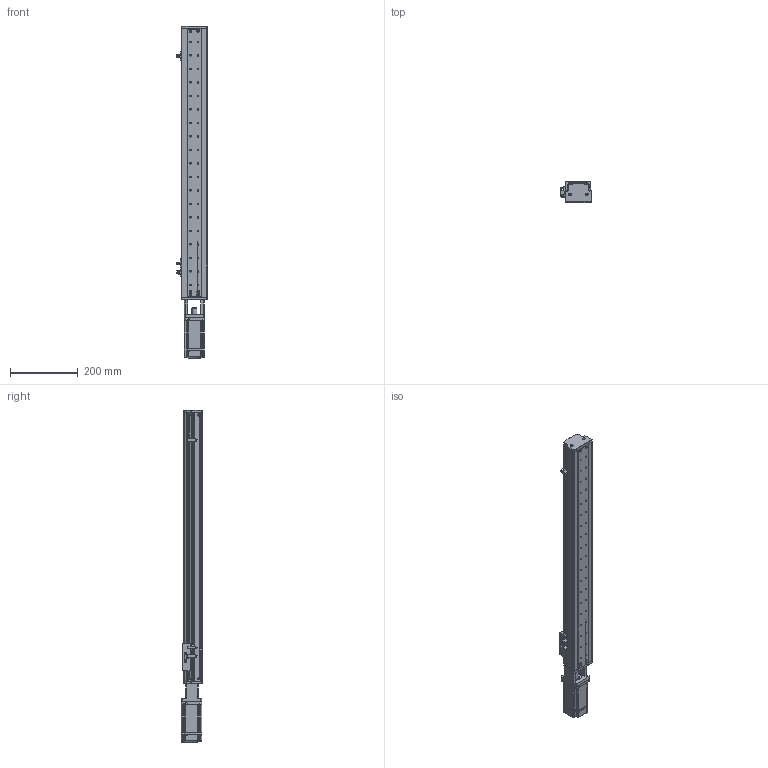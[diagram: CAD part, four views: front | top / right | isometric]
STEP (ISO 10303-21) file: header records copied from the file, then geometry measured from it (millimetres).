
FILE_DESCRIPTION (( 'STEP AP214' ), '1' );
FILE_NAME ('KSD75S-S640-MT-CM.STEP', '2019-10-18T07:33:55', ( '微软用户' ), ( '微软中国' ), 'SwSTEP 2.0', 'SolidWorks 2014', '' );
FILE_SCHEMA (( 'AUTOMOTIVE_DESIGN' ));
Length unit declared in the file: millimetre
Products named in the file (12): 640俴最; KSD75S-S640-MT-CM; MHMD042G1CA_2_03; 覜茼え100遵圉猾敕; U倰嫖萇EEㄜSX672; 綴傷啣 ; 100遵鎮湛假蚾啣1 ; ヶ傷啣; 75裔啣-640俴最; 75遵耀郪耜啣-640俴最; 75遵賑雄釱; MGW15H賑寢640俴最 
Assembly tree (14 placements, depth 3):
  KSD75S-S640-MT-CM
    MGW15H賑寢640俴最 
      640俴最
    75遵賑雄釱
    75遵耀郪耜啣-640俴最  x2
    75裔啣-640俴最
    ヶ傷啣
    100遵鎮湛假蚾啣1 
    綴傷啣 
    U倰嫖萇EEㄜSX672  x3
    覜茼え100遵圉猾敕
    MHMD042G1CA_2_03
Bounding box: 91.7 x 63 x 983.5 mm (x, y, z)
Volume: 990012.3 mm3; surface area: 621478.1 mm2
Topology: 12 solids, 13 shells, 1466 faces, 4125 edges, 2691 vertices
Faces by surface type: cylinder 708, plane 611, cone 129, bspline 18
Entity records: 47052 total; most frequent: CARTESIAN_POINT 8897, DIRECTION 7033, ORIENTED_EDGE 6530, EDGE_CURVE 3336, AXIS2_PLACEMENT_3D 2606, VERTEX_POINT 2209, LINE 1821, VECTOR 1821
